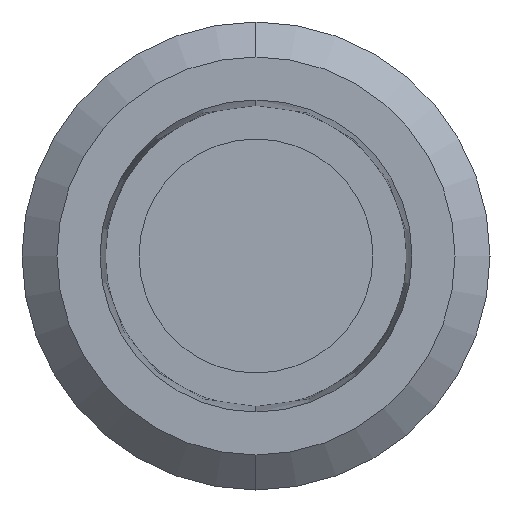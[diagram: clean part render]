
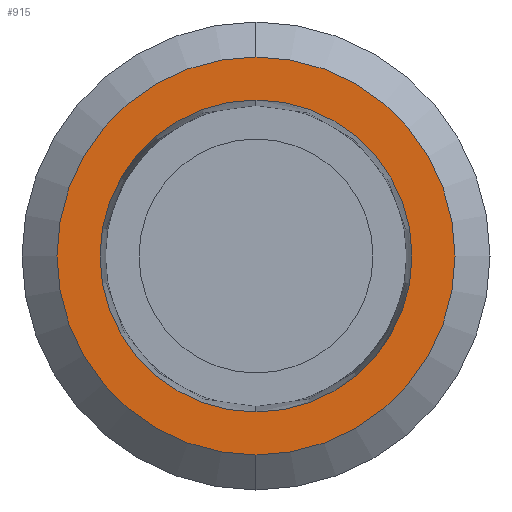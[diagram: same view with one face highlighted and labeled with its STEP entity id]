
A CAD part, left-side view. The second image highlights one B-rep face of the part: STEP entity #915.
In plain terms, the highlighted planar face has unit normal (-1, 0, 0).
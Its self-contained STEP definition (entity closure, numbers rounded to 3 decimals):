
#45 = EDGE_LOOP ( 'NONE', ( #1164, #1255 ) ) ;
#64 = AXIS2_PLACEMENT_3D ( 'NONE', #489, #205, #1216 ) ;
#88 = CARTESIAN_POINT ( 'NONE',  ( 0., 0., 0. ) ) ;
#106 = EDGE_CURVE ( 'NONE', #723, #1087, #1066, .T. ) ;
#111 = CARTESIAN_POINT ( 'NONE',  ( 0., 0., 0. ) ) ;
#124 = CARTESIAN_POINT ( 'NONE',  ( 0., 0., -2. ) ) ;
#205 = DIRECTION ( 'NONE',  ( -1., 0., 0. ) ) ;
#223 = DIRECTION ( 'NONE',  ( 0., 0., 1. ) ) ;
#233 = VERTEX_POINT ( 'NONE', #337 ) ;
#240 = AXIS2_PLACEMENT_3D ( 'NONE', #111, #283, #1137 ) ;
#263 = EDGE_LOOP ( 'NONE', ( #310, #497 ) ) ;
#283 = DIRECTION ( 'NONE',  ( -1., 0., 0. ) ) ;
#310 = ORIENTED_EDGE ( 'NONE', *, *, #106, .F. ) ;
#337 = CARTESIAN_POINT ( 'NONE',  ( 0., 0., 2.551 ) ) ;
#381 = AXIS2_PLACEMENT_3D ( 'NONE', #1014, #857, #1328 ) ;
#489 = CARTESIAN_POINT ( 'NONE',  ( 0., 0., 0. ) ) ;
#497 = ORIENTED_EDGE ( 'NONE', *, *, #1080, .F. ) ;
#646 = DIRECTION ( 'NONE',  ( -1., 0., 0. ) ) ;
#658 = FACE_OUTER_BOUND ( 'NONE', #45, .T. ) ;
#679 = CIRCLE ( 'NONE', #240, 2. ) ;
#712 = CIRCLE ( 'NONE', #381, 2.551 ) ;
#723 = VERTEX_POINT ( 'NONE', #1258 ) ;
#731 = PLANE ( 'NONE',  #64 ) ;
#841 = VERTEX_POINT ( 'NONE', #1225 ) ;
#857 = DIRECTION ( 'NONE',  ( -1., 0., 0. ) ) ;
#915 = ADVANCED_FACE ( 'NONE', ( #1203, #658 ), #731, .T. ) ;
#931 = EDGE_CURVE ( 'NONE', #233, #841, #1139, .T. ) ;
#986 = CARTESIAN_POINT ( 'NONE',  ( 0., 0., 0. ) ) ;
#1014 = CARTESIAN_POINT ( 'NONE',  ( 0., 0., 0. ) ) ;
#1066 = CIRCLE ( 'NONE', #1321, 2. ) ;
#1080 = EDGE_CURVE ( 'NONE', #1087, #723, #679, .T. ) ;
#1087 = VERTEX_POINT ( 'NONE', #124 ) ;
#1105 = EDGE_CURVE ( 'NONE', #841, #233, #712, .T. ) ;
#1137 = DIRECTION ( 'NONE',  ( 0., 0., 1. ) ) ;
#1139 = CIRCLE ( 'NONE', #1199, 2.551 ) ;
#1143 = DIRECTION ( 'NONE',  ( 0., 0., 1. ) ) ;
#1164 = ORIENTED_EDGE ( 'NONE', *, *, #931, .T. ) ;
#1199 = AXIS2_PLACEMENT_3D ( 'NONE', #88, #1251, #223 ) ;
#1203 = FACE_BOUND ( 'NONE', #263, .T. ) ;
#1216 = DIRECTION ( 'NONE',  ( 0., 0., 1. ) ) ;
#1225 = CARTESIAN_POINT ( 'NONE',  ( 0., 0., -2.551 ) ) ;
#1251 = DIRECTION ( 'NONE',  ( -1., 0., 0. ) ) ;
#1255 = ORIENTED_EDGE ( 'NONE', *, *, #1105, .T. ) ;
#1258 = CARTESIAN_POINT ( 'NONE',  ( 0., 0., 2. ) ) ;
#1321 = AXIS2_PLACEMENT_3D ( 'NONE', #986, #646, #1143 ) ;
#1328 = DIRECTION ( 'NONE',  ( 0., 0., 1. ) ) ;
